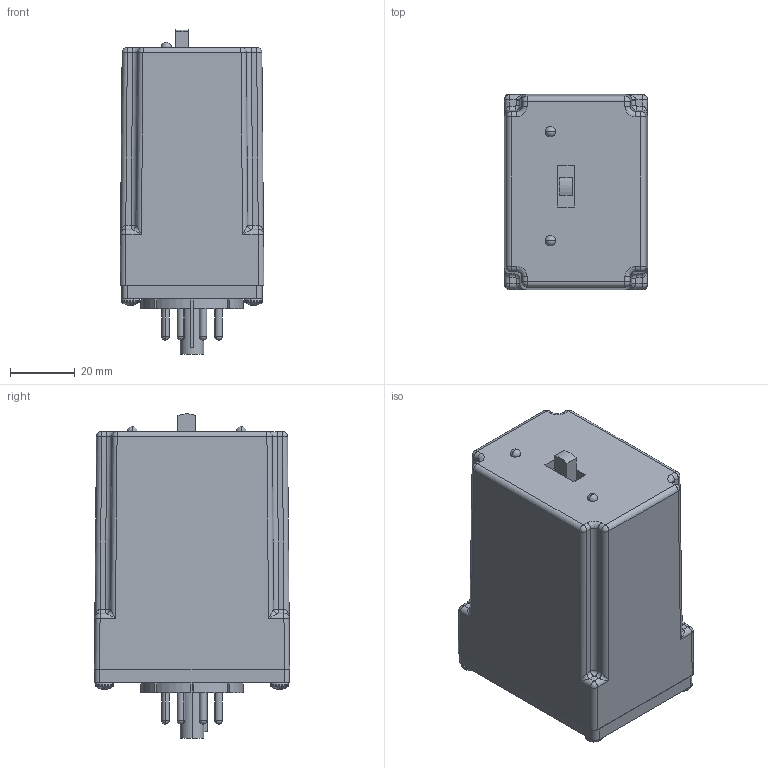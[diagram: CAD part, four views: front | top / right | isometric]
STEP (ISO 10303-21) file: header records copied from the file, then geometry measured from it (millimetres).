
FILE_DESCRIPTION (( 'STEP AP214' ), '1' );
FILE_NAME ('ARP w Switch.STEP', '2019-05-19T23:21:28', ( '' ), ( '' ), 'SwSTEP 2.0', 'SolidWorks 2019', '' );
FILE_SCHEMA (( 'AUTOMOTIVE_DESIGN' ));
Length unit declared in the file: millimetre
Products named in the file (1): ARP w Switch
Bounding box: 44.45 x 60.33 x 100.17 mm (x, y, z)
Volume: 200468.6 mm3; surface area: 29065.8 mm2
Topology: 16 solids, 16 shells, 694 faces, 1835 edges, 1168 vertices
Faces by surface type: cylinder 281, plane 227, bspline 114, cone 40, sphere 32
Entity records: 34698 total; most frequent: CARTESIAN_POINT 16556, ORIENTED_EDGE 3558, DIRECTION 2627, EDGE_CURVE 1779, VERTEX_POINT 1148, AXIS2_PLACEMENT_3D 919, VECTOR 789, LINE 789
